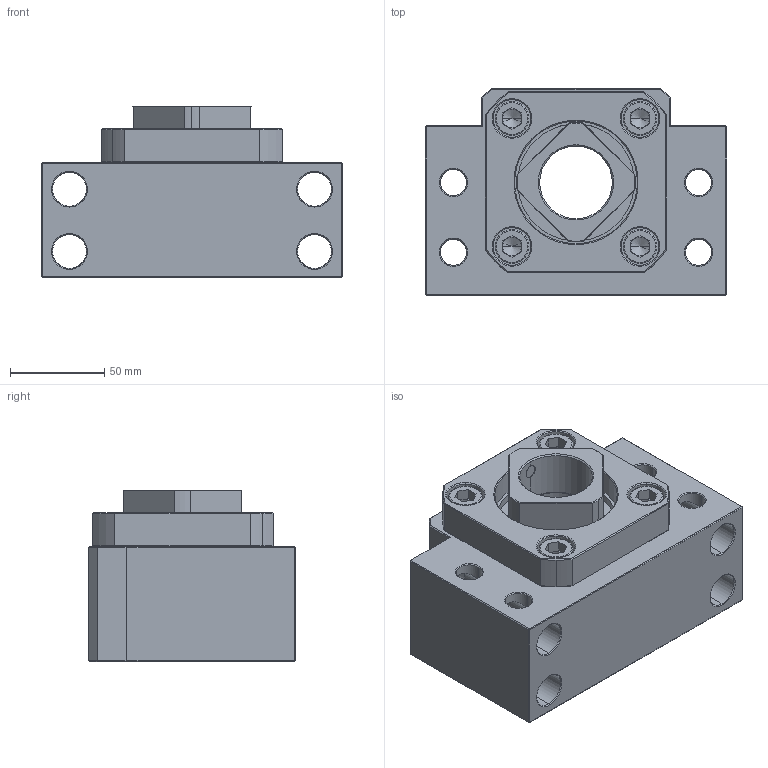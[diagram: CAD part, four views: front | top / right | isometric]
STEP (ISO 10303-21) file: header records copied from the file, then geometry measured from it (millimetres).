
FILE_DESCRIPTION (( 'STEP AP203' ), '1' );
FILE_NAME ('BSGK-40_203.STEP', '2013-02-26T01:24:33', ( '' ), ( '' ), 'SwSTEP 2.0', 'SolidWorks 2012', '' );
FILE_SCHEMA (( 'CONFIG_CONTROL_DESIGN' ));
Length unit declared in the file: millimetre
Products named in the file (1): BSGK-40_203
Bounding box: 160 x 110 x 91 mm (x, y, z)
Volume: 911767.1 mm3; surface area: 132203 mm2
Topology: 1 solids, 17 shells, 481 faces, 1112 edges, 652 vertices
Faces by surface type: plane 175, cylinder 146, cone 120, torus 40
Entity records: 15098 total; most frequent: CARTESIAN_POINT 4047, DIRECTION 2407, ORIENTED_EDGE 2188, EDGE_CURVE 1094, AXIS2_PLACEMENT_3D 942, VERTEX_POINT 652, EDGE_LOOP 542, LINE 523
